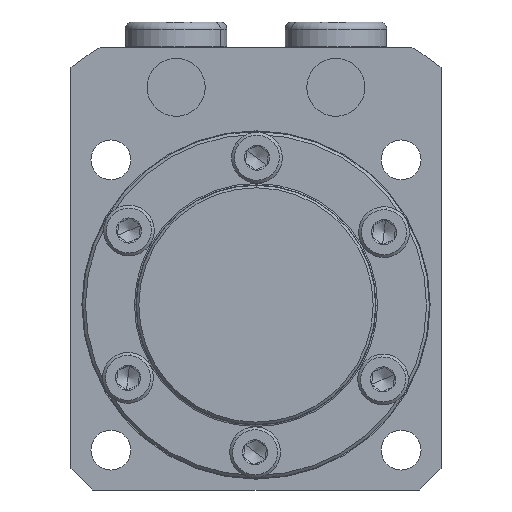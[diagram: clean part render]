
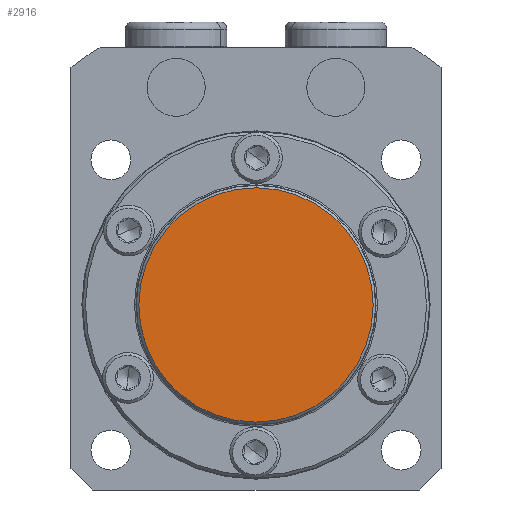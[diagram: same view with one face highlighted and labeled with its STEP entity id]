
A CAD part, front view. The second image highlights one B-rep face of the part: STEP entity #2916.
In plain terms, the highlighted planar face has unit normal (0, -1, 0).
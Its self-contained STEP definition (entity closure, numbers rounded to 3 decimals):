
#432 = PLANE ( 'NONE',  #3325 ) ;
#562 = CIRCLE ( 'NONE', #4030, 16.15 ) ;
#630 = CIRCLE ( 'NONE', #2695, 16.15 ) ;
#702 = EDGE_CURVE ( 'NONE', #1740, #1987, #630, .T. ) ;
#1018 = EDGE_CURVE ( 'NONE', #1987, #1740, #562, .T. ) ;
#1065 = ORIENTED_EDGE ( 'NONE', *, *, #1018, .T. ) ;
#1299 = DIRECTION ( 'NONE',  ( 0., 0., -1. ) ) ;
#1395 = DIRECTION ( 'NONE',  ( 0., -1., 0. ) ) ;
#1740 = VERTEX_POINT ( 'NONE', #5007 ) ;
#1987 = VERTEX_POINT ( 'NONE', #4886 ) ;
#2102 = DIRECTION ( 'NONE',  ( 0., -1., 0. ) ) ;
#2695 = AXIS2_PLACEMENT_3D ( 'NONE', #3960, #1395, #4388 ) ;
#2916 = ADVANCED_FACE ( 'NONE', ( #4950 ), #432, .T. ) ;
#3325 = AXIS2_PLACEMENT_3D ( 'NONE', #3417, #3853, #1299 ) ;
#3417 = CARTESIAN_POINT ( 'NONE',  ( 0., -8.5, 0. ) ) ;
#3853 = DIRECTION ( 'NONE',  ( 0., -1., 0. ) ) ;
#3960 = CARTESIAN_POINT ( 'NONE',  ( 0., -8.5, 0. ) ) ;
#4030 = AXIS2_PLACEMENT_3D ( 'NONE', #4681, #2102, #5125 ) ;
#4388 = DIRECTION ( 'NONE',  ( 0., 0., -1. ) ) ;
#4506 = ORIENTED_EDGE ( 'NONE', *, *, #702, .T. ) ;
#4681 = CARTESIAN_POINT ( 'NONE',  ( 0., -8.5, 0. ) ) ;
#4886 = CARTESIAN_POINT ( 'NONE',  ( 0., -8.5, -16.15 ) ) ;
#4950 = FACE_OUTER_BOUND ( 'NONE', #5560, .T. ) ;
#5007 = CARTESIAN_POINT ( 'NONE',  ( 0., -8.5, 16.15 ) ) ;
#5125 = DIRECTION ( 'NONE',  ( 0., 0., -1. ) ) ;
#5560 = EDGE_LOOP ( 'NONE', ( #4506, #1065 ) ) ;
